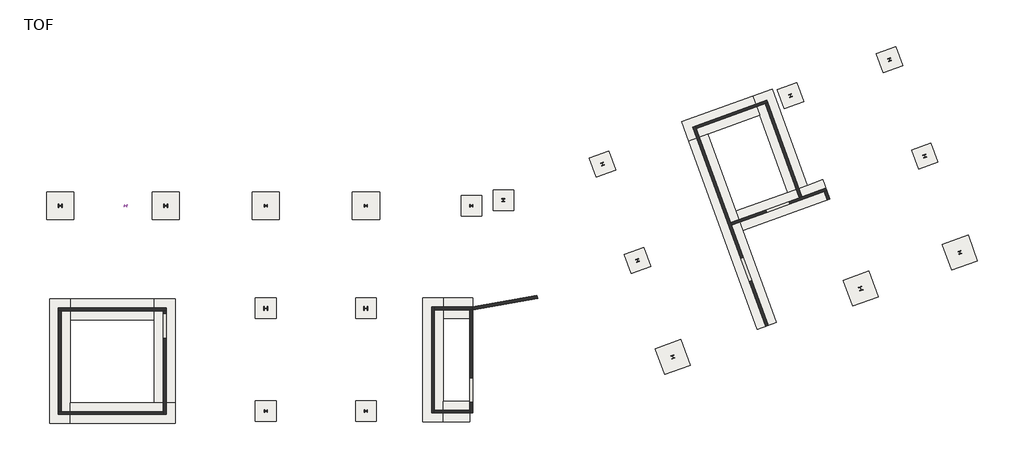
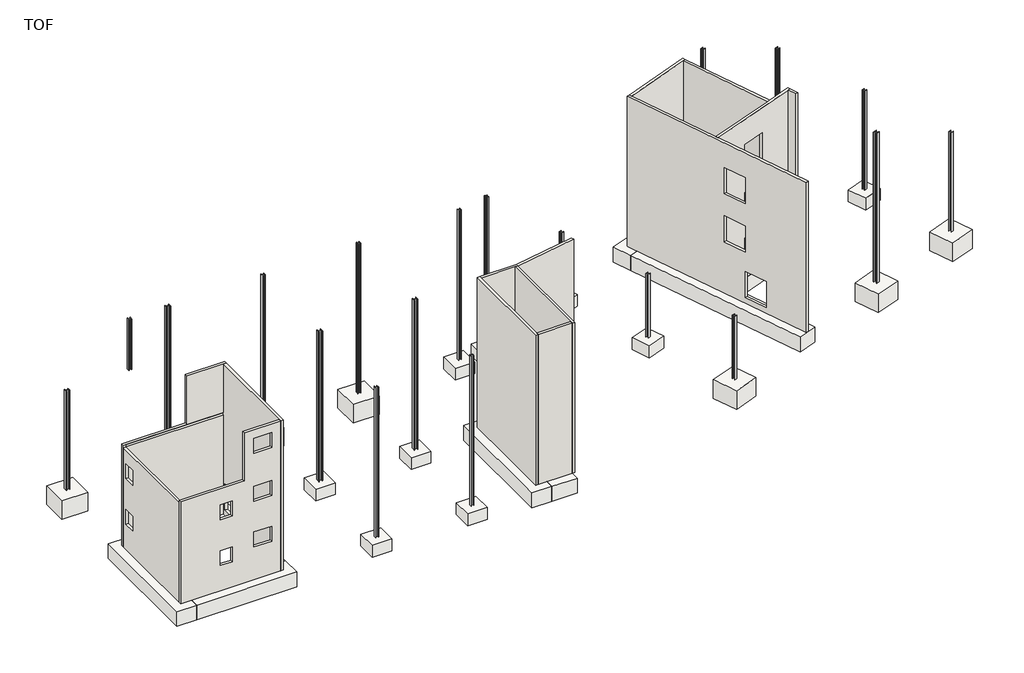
# One storey: 19 columns, 18 slabs, 14 walls, 11 footings.
"""IFC4 building model written with IfcOpenShell, lengths in millimetres."""

from ifc_helpers import new_model, si_unit, point, frame, frame_2d, origin, place, context, project, spatial, polyline, circle_curve, trimmed, segment, composite_curve, outline, extrude, faceted_brep, transform, mapped, element, save
from components import uc_universal_columns_column_uc203x203x71_d5d84301, uc_universal_columns_column_uc203x203x71_8376c960, uc_universal_columns_column_uc203x203x71_e4823124, uc_universal_columns_column_uc254x254x132_117509a7, uc_universal_columns_column_uc254x254x132_a49aefed, footing_rectangular_1500_x_1500_x_950_28d08e25, footing_rectangular_2000_x_2000_x_1500_609e12ed

model = new_model("IFC4")

# Units and contexts
model_context = context("Model", 3, world=origin())
ifc_project = project(units=[si_unit("LENGTHUNIT", "METRE", prefix="MILLI")], contexts=[model_context])

# Site, building, storey
site = spatial("IfcSite", under=ifc_project)
building = spatial("IfcBuilding", under=site)
storey = spatial("IfcBuildingStorey", under=building, Name="TOF", Elevation=-450.0)

# Columns
placement = place(None, origin())
element("IfcColumn", 1, ObjectType="UC-Universal Columns-Column : UC203x203x71", at=placement, inside=storey, context=model_context, shape_type="SweptSolid", body=[
    extrude(outline(composite_curve([segment(polyline([(5023.9666692, 15466.4000005), (5041.2666692, 15466.4000005), (5041.2666692, 15378.4000005)]), True, "CONTINUOUS"), segment(trimmed(circle_curve(frame_2d((5051.4666692, 15378.4000005)), 10.2), [point((5041.2666692, 15378.4000005))], [point((5051.4666692, 15368.2000005))], True, "CARTESIAN"), True, "CONTINUOUS"), segment(polyline([(5051.4666692, 15368.2000005), (5212.2666692, 15368.2000005)]), True, "CONTINUOUS"), segment(trimmed(circle_curve(frame_2d((5212.2666692, 15378.4000005)), 10.2), [point((5212.2666692, 15368.2000005))], [point((5222.4666692, 15378.4000005))], True, "CARTESIAN"), True, "CONTINUOUS"), segment(polyline([(5222.4666692, 15378.4000005), (5222.4666692, 15466.4000005), (5239.7666692, 15466.4000005), (5239.7666692, 15260.0000005), (5222.4666692, 15260.0000005), (5222.4666692, 15348.0000005)]), True, "CONTINUOUS"), segment(trimmed(circle_curve(frame_2d((5212.2666692, 15348.0000005)), 10.2), [point((5222.4666692, 15348.0000005))], [point((5212.2666692, 15358.2000005))], True, "CARTESIAN"), True, "CONTINUOUS"), segment(polyline([(5212.2666692, 15358.2000005), (5051.4666692, 15358.2000005)]), True, "CONTINUOUS"), segment(trimmed(circle_curve(frame_2d((5051.4666692, 15348.0000005)), 10.2), [point((5051.4666692, 15358.2000005))], [point((5041.2666692, 15348.0000005))], True, "CARTESIAN"), True, "CONTINUOUS"), segment(polyline([(5041.2666692, 15348.0000005), (5041.2666692, 15260.0000005), (5023.9666692, 15260.0000005), (5023.9666692, 15466.4000005)]), True, "CONTINUOUS")], self_intersect=False)), frame((0.0, 0.0, 7595.0), z_axis=(0.0, 0.0, 1.0), x_axis=(1.0, 0.0, 0.0)), (0.0, 0.0, 1.0), 4105.0),
])
uc_universal_columns_column_uc203x203x71_shape = uc_universal_columns_column_uc203x203x71_d5d84301(model_context)
element("IfcColumn", 2, ObjectType="UC-Universal Columns-Column : UC203x203x71", at=placement, inside=storey, context=model_context, shape_type="MappedRepresentation", body=[
    mapped(uc_universal_columns_column_uc203x203x71_shape, transform((22662.2000023, 15363.2000005, 0.0), x_axis=(0.0, 1.0, 0.0), y_axis=(-1.0, 0.0, 0.0), z_axis=(0.0, 0.0, 1.0))),
])
element("IfcColumn", 3, ObjectType="UC-Universal Columns-Column : UC203x203x71", at=placement, inside=storey, context=model_context, shape_type="MappedRepresentation", body=[
    mapped(uc_universal_columns_column_uc203x203x71_shape, transform((15362.2000023, 15363.2000005, 0.0), x_axis=(0.0, 1.0, 0.0), y_axis=(-1.0, 0.0, 0.0), z_axis=(0.0, 0.0, 1.0))),
])
element("IfcColumn", 4, ObjectType="UC-Universal Columns-Column : UC203x203x71", at=placement, inside=storey, context=model_context, shape_type="MappedRepresentation", body=[
    mapped(uc_universal_columns_column_uc203x203x71_shape, transform((15362.2000023, 363.2000005, 0.0), x_axis=(0.0, 1.0, 0.0), y_axis=(-1.0, 0.0, 0.0), z_axis=(0.0, 0.0, 1.0))),
])
element("IfcColumn", 5, ObjectType="UC-Universal Columns-Column : UC203x203x71", at=placement, inside=storey, context=model_context, shape_type="MappedRepresentation", body=[
    mapped(uc_universal_columns_column_uc203x203x71_shape, transform((22662.2000022, 363.2000005, 0.0), x_axis=(0.0, 1.0, 0.0), y_axis=(-1.0, 0.0, 0.0), z_axis=(0.0, 0.0, 1.0))),
])
element("IfcColumn", 6, ObjectType="UC-Universal Columns-Column : UC203x203x71", at=placement, inside=storey, context=model_context, shape_type="MappedRepresentation", body=[
    mapped(uc_universal_columns_column_uc203x203x71_shape, transform((53654.8598867, 23402.4160596, 0.0), x_axis=(0.9396926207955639, 0.3420201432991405, 0.0), y_axis=(-0.3420201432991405, 0.9396926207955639, 0.0), z_axis=(0.0, 0.0, 1.0))),
])
element("IfcColumn", 7, ObjectType="UC-Universal Columns-Column : UC203x203x71", at=placement, inside=storey, context=model_context, shape_type="MappedRepresentation", body=[
    mapped(uc_universal_columns_column_uc203x203x71_shape, transform((30362.2000022, 15363.2000005, 0.0), x_axis=(0.0, 1.0, 0.0), y_axis=(-1.0, 0.0, 0.0), z_axis=(0.0, 0.0, 1.0))),
])
element("IfcColumn", 8, ObjectType="UC-Universal Columns-Column : UC203x203x71", at=placement, inside=storey, context=model_context, shape_type="MappedRepresentation", body=[
    mapped(uc_universal_columns_column_uc203x203x71_shape, transform((32699.714443, 15775.3668642, 0.0), x_axis=(1.0, 0.0, 0.0), y_axis=(0.0, 1.0, 0.0), z_axis=(0.0, 0.0, 1.0))),
])
uc_universal_columns_column_uc203x203x71_2_shape = uc_universal_columns_column_uc203x203x71_8376c960(model_context)
element("IfcColumn", 9, ObjectType="UC-Universal Columns-Column : UC203x203x71", at=placement, inside=storey, context=model_context, shape_type="MappedRepresentation", body=[
    mapped(uc_universal_columns_column_uc203x203x71_2_shape, transform((60890.4930669, 26035.971163, 0.0), x_axis=(0.9396926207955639, 0.3420201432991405, 0.0), y_axis=(-0.3420201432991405, 0.9396926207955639, 0.0), z_axis=(0.0, 0.0, 1.0))),
])
element("IfcColumn", 10, ObjectType="UC-Universal Columns-Column : UC203x203x71", at=placement, inside=storey, context=model_context, shape_type="MappedRepresentation", body=[
    mapped(uc_universal_columns_column_uc203x203x71_2_shape, transform((63455.6441416, 18988.2765071, 0.0), x_axis=(0.9396926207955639, 0.3420201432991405, 0.0), y_axis=(-0.3420201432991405, 0.9396926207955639, 0.0), z_axis=(0.0, 0.0, 1.0))),
])
element("IfcColumn", 11, ObjectType="UC-Universal Columns-Column : UC203x203x71", at=placement, inside=storey, context=model_context, shape_type="MappedRepresentation", body=[
    mapped(uc_universal_columns_column_uc203x203x71_2_shape, transform((66020.7952164, 11940.5818511, 0.0), x_axis=(0.9396926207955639, 0.3420201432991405, 0.0), y_axis=(-0.3420201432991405, 0.9396926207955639, 0.0), z_axis=(0.0, 0.0, 1.0))),
])
uc_universal_columns_column_uc203x203x71_3_shape = uc_universal_columns_column_uc203x203x71_e4823124(model_context)
element("IfcColumn", 12, ObjectType="UC-Universal Columns-Column : UC203x203x71", at=placement, inside=storey, context=model_context, shape_type="MappedRepresentation", body=[
    mapped(uc_universal_columns_column_uc203x203x71_3_shape, transform((42500.4986978, 11361.2273115, 0.0), x_axis=(0.9396926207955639, 0.3420201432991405, 0.0), y_axis=(-0.3420201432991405, 0.9396926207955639, 0.0), z_axis=(0.0, 0.0, 1.0))),
])
element("IfcColumn", 13, ObjectType="UC-Universal Columns-Column : UC203x203x71", at=placement, inside=storey, context=model_context, shape_type="MappedRepresentation", body=[
    mapped(uc_universal_columns_column_uc203x203x71_3_shape, transform((39935.3476231, 18408.9219674, 0.0), x_axis=(0.9396926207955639, 0.3420201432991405, 0.0), y_axis=(-0.3420201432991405, 0.9396926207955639, 0.0), z_axis=(0.0, 0.0, 1.0))),
])
element("IfcColumn", 14, ObjectType="UC-Universal Columns-Column : UC203x203x71", at=placement, inside=storey, context=model_context, shape_type="MappedRepresentation", body=[
    mapped(uc_universal_columns_column_uc203x203x71_3_shape, transform((45065.6497726, 4313.5326555, 0.0), x_axis=(0.939692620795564, 0.3420201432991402, 0.0), y_axis=(-0.3420201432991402, 0.939692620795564, 0.0), z_axis=(0.0, 0.0, 1.0))),
])
uc_universal_columns_column_uc254x254x132_shape = uc_universal_columns_column_uc254x254x132_117509a7(model_context)
element("IfcColumn", 15, ObjectType="UC-Universal Columns-Column : UC254x254x132", at=placement, inside=storey, context=model_context, shape_type="MappedRepresentation", body=[
    mapped(uc_universal_columns_column_uc254x254x132_shape, transform((15362.2000023, 7863.2000004, 0.0), x_axis=(0.0, 1.0, 0.0), y_axis=(-1.0, 0.0, 0.0), z_axis=(0.0, 0.0, 1.0))),
])
element("IfcColumn", 16, ObjectType="UC-Universal Columns-Column : UC254x254x132", at=placement, inside=storey, context=model_context, shape_type="MappedRepresentation", body=[
    mapped(uc_universal_columns_column_uc254x254x132_shape, transform((22662.2000022, 7863.2000004, 0.0), x_axis=(0.0, 1.0, 0.0), y_axis=(-1.0, 0.0, 0.0), z_axis=(0.0, 0.0, 1.0))),
])
element("IfcColumn", 17, ObjectType="UC-Universal Columns-Column : UC254x254x132", at=placement, inside=storey, context=model_context, shape_type="MappedRepresentation", body=[
    mapped(uc_universal_columns_column_uc254x254x132_shape, transform((8062.2000022, 15363.2000005, 0.0), x_axis=(0.0, 1.0, 0.0), y_axis=(-1.0, 0.0, 0.0), z_axis=(0.0, 0.0, 1.0))),
])
element("IfcColumn", 18, ObjectType="UC-Universal Columns-Column : UC254x254x132", at=placement, inside=storey, context=model_context, shape_type="MappedRepresentation", body=[
    mapped(uc_universal_columns_column_uc254x254x132_shape, transform((58785.1620362, 9307.0267477, 0.0), x_axis=(0.9396926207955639, 0.3420201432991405, 0.0), y_axis=(-0.3420201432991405, 0.9396926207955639, 0.0), z_axis=(0.0, 0.0, 1.0))),
])
uc_universal_columns_column_uc254x254x132_2_shape = uc_universal_columns_column_uc254x254x132_a49aefed(model_context)
element("IfcColumn", 19, ObjectType="UC-Universal Columns-Column : UC254x254x132", at=placement, inside=storey, context=model_context, shape_type="MappedRepresentation", body=[
    mapped(uc_universal_columns_column_uc254x254x132_2_shape, transform((362.2000023, 15363.2000005, 0.0), x_axis=(0.0, 1.0, 0.0), y_axis=(-1.0, 0.0, 0.0), z_axis=(0.0, 0.0, 1.0))),
])

# Footings
element("IfcFooting", 20, ObjectType="Retaining Footing - 1500 x 1200", at=placement, inside=storey, context=model_context, shape_type="Brep", body=[
    faceted_brep([(1082.9999999, -536.9999993, -450.0), (1083.0000002, 963.0000007, -450.0), (1083.0000011, 7038.2000003, -450.0), (1083.0000014, 8538.2000003, -450.0), (-416.9999986, 8538.2000003, -450.0), (-417.0000001, -536.9999993, -450.0), (-417.0000001, -536.9999993, -1650.0), (-416.9999986, 8538.2000003, -1650.0), (1082.9999999, -536.9999993, -1650.0), (1083.0000014, 8538.2000003, -1650.0), (1083.0000011, 7038.2000003, -1650.0), (1083.0000002, 963.0000007, -1650.0)], [[[0, 1, 2, 3, 4, 5]], [[6, 5, 4, 7]], [[8, 6, 7, 9, 10, 11]], [[0, 8, 11, 10, 9, 3, 2, 1]], [[0, 5, 6, 8]], [[4, 3, 9, 7]]]),
])
element("IfcFooting", 21, ObjectType="Retaining Footing - 1500 x 1200", at=placement, inside=storey, context=model_context, shape_type="Brep", body=[
    faceted_brep([(8737.2000024, -536.9999993, -450.0), (8737.2000024, 963.0000007, -450.0), (7237.2000024, 963.0000007, -450.0), (1083.0000002, 963.0000007, -450.0), (1082.9999999, -536.9999993, -450.0), (8737.2000024, -536.9999993, -1650.0), (1082.9999999, -536.9999993, -1650.0), (8737.2000024, 963.0000007, -1650.0), (1083.0000002, 963.0000007, -1650.0), (7237.2000024, 963.0000007, -1650.0)], [[[0, 1, 2, 3, 4]], [[5, 0, 4, 6]], [[7, 5, 6, 8, 9]], [[1, 7, 9, 8, 3, 2]], [[4, 3, 8, 6]], [[1, 0, 5, 7]]]),
])
element("IfcFooting", 22, ObjectType="Retaining Footing - 1500 x 1200", at=placement, inside=storey, context=model_context, shape_type="Brep", body=[
    faceted_brep([(8737.2000024, 8538.2000005, -450.0), (7237.2000024, 8538.2000005, -450.0), (7237.2000024, 7038.2000005, -450.0), (7237.2000024, 963.0000007, -450.0), (8737.2000024, 963.0000007, -450.0), (8737.2000024, 8538.2000005, -1650.0), (8737.2000024, 963.0000007, -1650.0), (7237.2000024, 8538.2000005, -1650.0), (7237.2000024, 963.0000007, -1650.0), (7237.2000024, 7038.2000005, -1650.0)], [[[0, 1, 2, 3, 4]], [[5, 0, 4, 6]], [[7, 5, 6, 8, 9]], [[1, 7, 9, 8, 3, 2]], [[4, 3, 8, 6]], [[1, 0, 5, 7]]]),
])
element("IfcFooting", 23, ObjectType="Retaining Footing - 1500 x 1200", at=placement, inside=storey, context=model_context, shape_type="SweptSolid", body=[
    extrude(outline(polyline([(1083.0000011, 7038.2000003), (1083.0000014, 8538.2000003), (7237.2000024, 8538.2000005), (7237.2000024, 7038.2000005), (1083.0000011, 7038.2000003)])), frame((0.0, 0.0, -1650.0), z_axis=(0.0, 0.0, 1.0), x_axis=(1.0, 0.0, 0.0)), (0.0, 0.0, 1.0), 1200.0),
])
element("IfcFooting", 24, ObjectType="Retaining Footing - 1500 x 1200", at=placement, inside=storey, context=model_context, shape_type="Brep", body=[
    faceted_brep([(28312.2000028, -429.9999994, -450.0), (28312.2000028, 1070.0000006, -450.0), (28312.2000028, 7113.2000004, -450.0), (28312.2000028, 8613.2000004, -450.0), (26812.2000028, 8613.2000004, -450.0), (26812.2000028, -429.9999994, -450.0), (26812.2000028, -429.9999994, -1650.0), (26812.2000028, 8613.2000004, -1650.0), (28312.2000028, -429.9999994, -1650.0), (28312.2000028, 8613.2000004, -1650.0), (28312.2000028, 7113.2000004, -1650.0), (28312.2000028, 1070.0000006, -1650.0)], [[[0, 1, 2, 3, 4, 5]], [[6, 5, 4, 7]], [[8, 6, 7, 9, 10, 11]], [[0, 8, 11, 10, 9, 3, 2, 1]], [[4, 3, 9, 7]], [[0, 5, 6, 8]]]),
])
element("IfcFooting", 25, ObjectType="Retaining Footing - 1500 x 1200", at=placement, inside=storey, context=model_context, shape_type="SweptSolid", body=[
    extrude(outline(polyline([(30462.2000027, 8613.2000004), (30462.2000027, 7113.2000004), (28312.2000028, 7113.2000004), (28312.2000028, 8613.2000004), (30462.2000027, 8613.2000004)])), frame((0.0, 0.0, -1650.0), z_axis=(0.0, 0.0, 1.0), x_axis=(1.0, 0.0, 0.0)), (0.0, 0.0, 1.0), 1200.0),
])
element("IfcFooting", 26, ObjectType="Retaining Footing - 1500 x 1200", at=placement, inside=storey, context=model_context, shape_type="SweptSolid", body=[
    extrude(outline(polyline([(30262.2000024, 1070.0000006), (30262.2000024, -429.9999994), (28312.2000028, -429.9999994), (28312.2000028, 1070.0000006), (30262.2000024, 1070.0000006)])), frame((0.0, 0.0, -1650.0), z_axis=(0.0, 0.0, 1.0), x_axis=(1.0, 0.0, 0.0)), (0.0, 0.0, 1.0), 1200.0),
])
element("IfcFooting", 27, ObjectType="Retaining Footing - 1500 x 1200", at=placement, inside=storey, context=model_context, shape_type="Brep", body=[
    faceted_brep([(50904.0078621, 23385.7650789, -450.0), (51417.0380771, 21976.2261477, -450.0), (53468.3722906, 16340.2317159, -450.0), (54877.9112218, 16853.2619309, -450.0), (52313.5467933, 23898.7952939, -450.0), (52313.5467933, 23898.7952939, -1650.0), (54877.9112218, 16853.2619309, -1650.0), (50904.0078621, 23385.7650789, -1650.0), (53468.3722906, 16340.2317159, -1650.0), (51417.0380771, 21976.2261477, -1650.0)], [[[0, 1, 2, 3, 4]], [[5, 4, 3, 6]], [[7, 5, 6, 8, 9]], [[0, 7, 9, 8, 2, 1]], [[0, 4, 5, 7]], [[3, 2, 8, 6]]]),
])
element("IfcFooting", 28, ObjectType="Retaining Footing - 1500 x 1200", at=placement, inside=storey, context=model_context, shape_type="Brep", body=[
    faceted_brep([(45703.4203062, 21492.9060081, -450.0), (46216.4505212, 20083.3670769, -450.0), (47625.9894524, 20596.3972918, -450.0), (51417.0380771, 21976.2261477, -450.0), (50904.0078621, 23385.7650789, -450.0), (45703.4203062, 21492.9060081, -1650.0), (50904.0078621, 23385.7650789, -1650.0), (46216.4505212, 20083.3670769, -1650.0), (51417.0380771, 21976.2261477, -1650.0), (47625.9894524, 20596.3972918, -1650.0)], [[[0, 1, 2, 3, 4]], [[5, 0, 4, 6]], [[7, 5, 6, 8, 9]], [[1, 7, 9, 8, 3, 2]], [[4, 3, 8, 6]], [[1, 0, 5, 7]]]),
])
element("IfcFooting", 29, ObjectType="Retaining Footing - 1500 x 1200", at=placement, inside=storey, context=model_context, shape_type="Brep", body=[
    faceted_brep([(51223.7622271, 6325.8912314, -450.0), (51223.7622271, 6325.8912314, -1650.0), (52633.3011583, 6838.9214464, -1650.0), (52633.3011583, 6838.9214464, -450.0), (50190.3538808, 13550.8639288, -450.0), (49677.3236659, 14960.40286, -450.0), (47625.9894524, 20596.3972918, -450.0), (46216.4505212, 20083.3670769, -450.0), (46216.4505212, 20083.3670769, -1650.0), (47625.9894524, 20596.3972918, -1650.0), (49677.3236659, 14960.40286, -1650.0), (50190.3538808, 13550.8639288, -1650.0)], [[[0, 1, 2, 3]], [[0, 3, 4, 5, 6, 7]], [[1, 0, 7, 8]], [[2, 1, 8, 9, 10, 11]], [[3, 2, 11, 10, 9, 6, 5, 4]], [[7, 6, 9, 8]]]),
])
element("IfcFooting", 30, ObjectType="Retaining Footing - 1500 x 1200", at=placement, inside=storey, context=model_context, shape_type="Brep", body=[
    faceted_brep([(56533.2790712, 15859.499896, -450.0), (56533.2790712, 15859.499896, -1650.0), (56020.2488562, 17269.0388272, -1650.0), (56020.2488562, 17269.0388272, -450.0), (50190.3538808, 13550.8639288, -450.0), (54877.9112218, 16853.2619309, -450.0), (53468.3722906, 16340.2317159, -450.0), (49677.3236659, 14960.40286, -450.0), (50190.3538808, 13550.8639288, -1650.0), (49677.3236659, 14960.40286, -1650.0), (53468.3722906, 16340.2317159, -1650.0), (54877.9112218, 16853.2619309, -1650.0)], [[[0, 1, 2, 3]], [[4, 0, 3, 5, 6, 7]], [[1, 0, 4, 8]], [[2, 1, 8, 9, 10, 11]], [[3, 2, 11, 10, 9, 7, 6, 5]], [[4, 7, 9, 8]]]),
])

# Slabs
footing_rectangular_1500_x_1500_x_950_shape = footing_rectangular_1500_x_1500_x_950_28d08e25(model_context)
element("IfcSlab", 31, ObjectType="Footing-Rectangular : 1500 x 1500 x 950", at=placement, inside=storey, context=model_context, shape_type="MappedRepresentation", body=[
    mapped(footing_rectangular_1500_x_1500_x_950_shape, transform((15362.2000023, 7863.2000004, -450.0), x_axis=(0.0, 1.0, 0.0), y_axis=(-1.0, 0.0, 0.0), z_axis=(0.0, 0.0, 1.0))),
])
element("IfcSlab", 32, ObjectType="Footing-Rectangular : 1500 x 1500 x 950", at=placement, inside=storey, context=model_context, shape_type="MappedRepresentation", body=[
    mapped(footing_rectangular_1500_x_1500_x_950_shape, transform((22662.2000022, 7863.2000004, -450.0), x_axis=(0.0, 1.0, 0.0), y_axis=(-1.0, 0.0, 0.0), z_axis=(0.0, 0.0, 1.0))),
])
element("IfcSlab", 33, ObjectType="Footing-Rectangular : 1500 x 1500 x 950", at=placement, inside=storey, context=model_context, shape_type="MappedRepresentation", body=[
    mapped(footing_rectangular_1500_x_1500_x_950_shape, transform((15362.2000023, 363.2000005, -450.0), x_axis=(0.0, 1.0, 0.0), y_axis=(-1.0, 0.0, 0.0), z_axis=(0.0, 0.0, 1.0))),
])
element("IfcSlab", 34, ObjectType="Footing-Rectangular : 1500 x 1500 x 950", at=placement, inside=storey, context=model_context, shape_type="MappedRepresentation", body=[
    mapped(footing_rectangular_1500_x_1500_x_950_shape, transform((22662.2000022, 363.2000005, -450.0), x_axis=(0.0, 1.0, 0.0), y_axis=(-1.0, 0.0, 0.0), z_axis=(0.0, 0.0, 1.0))),
])
element("IfcSlab", 35, ObjectType="Footing-Rectangular : 1500 x 1500 x 950", at=placement, inside=storey, context=model_context, shape_type="MappedRepresentation", body=[
    mapped(footing_rectangular_1500_x_1500_x_950_shape, transform((42500.4986978, 11361.2273115, -450.0), x_axis=(0.9396926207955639, 0.3420201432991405, 0.0), y_axis=(-0.3420201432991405, 0.9396926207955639, 0.0), z_axis=(0.0, 0.0, 1.0))),
])
element("IfcSlab", 36, ObjectType="Footing-Rectangular : 1500 x 1500 x 950", at=placement, inside=storey, context=model_context, shape_type="MappedRepresentation", body=[
    mapped(footing_rectangular_1500_x_1500_x_950_shape, transform((39935.3476231, 18408.9219674, -450.0), x_axis=(0.9396926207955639, 0.3420201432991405, 0.0), y_axis=(-0.3420201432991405, 0.9396926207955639, 0.0), z_axis=(0.0, 0.0, 1.0))),
])
element("IfcSlab", 37, ObjectType="Footing-Rectangular : 1500 x 1500 x 950", at=placement, inside=storey, context=model_context, shape_type="MappedRepresentation", body=[
    mapped(footing_rectangular_1500_x_1500_x_950_shape, transform((53654.8598867, 23402.4160596, -450.0), x_axis=(0.9396926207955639, 0.3420201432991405, 0.0), y_axis=(-0.3420201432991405, 0.9396926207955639, 0.0), z_axis=(0.0, 0.0, 1.0))),
])
element("IfcSlab", 38, ObjectType="Footing-Rectangular : 1500 x 1500 x 950", at=placement, inside=storey, context=model_context, shape_type="MappedRepresentation", body=[
    mapped(footing_rectangular_1500_x_1500_x_950_shape, transform((60890.4930669, 26035.971163, -450.0), x_axis=(0.9396926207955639, 0.3420201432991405, 0.0), y_axis=(-0.3420201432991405, 0.9396926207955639, 0.0), z_axis=(0.0, 0.0, 1.0))),
])
element("IfcSlab", 39, ObjectType="Footing-Rectangular : 1500 x 1500 x 950", at=placement, inside=storey, context=model_context, shape_type="MappedRepresentation", body=[
    mapped(footing_rectangular_1500_x_1500_x_950_shape, transform((63455.6441416, 18988.2765071, -450.0), x_axis=(0.9396926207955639, 0.3420201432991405, 0.0), y_axis=(-0.3420201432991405, 0.9396926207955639, 0.0), z_axis=(0.0, 0.0, 1.0))),
])
element("IfcSlab", 40, ObjectType="Footing-Rectangular : 1500 x 1500 x 950", at=placement, inside=storey, context=model_context, shape_type="MappedRepresentation", body=[
    mapped(footing_rectangular_1500_x_1500_x_950_shape, transform((30362.2000022, 15363.2000005, -450.0), x_axis=(0.0, 1.0, 0.0), y_axis=(-1.0, 0.0, 0.0), z_axis=(0.0, 0.0, 1.0))),
])
element("IfcSlab", 41, ObjectType="Footing-Rectangular : 1500 x 1500 x 950", at=placement, inside=storey, context=model_context, shape_type="MappedRepresentation", body=[
    mapped(footing_rectangular_1500_x_1500_x_950_shape, transform((32699.714443, 15775.3668642, -450.0), x_axis=(1.0, 0.0, 0.0), y_axis=(0.0, 1.0, 0.0), z_axis=(0.0, 0.0, 1.0))),
])
footing_rectangular_2000_x_2000_x_1500_shape = footing_rectangular_2000_x_2000_x_1500_609e12ed(model_context)
element("IfcSlab", 42, ObjectType="Footing-Rectangular : 2000 x 2000 x 1500", at=placement, inside=storey, context=model_context, shape_type="MappedRepresentation", body=[
    mapped(footing_rectangular_2000_x_2000_x_1500_shape, transform((22662.2000023, 15363.2000005, -450.0), x_axis=(0.0, 1.0, 0.0), y_axis=(-1.0, 0.0, 0.0), z_axis=(0.0, 0.0, 1.0))),
])
element("IfcSlab", 43, ObjectType="Footing-Rectangular : 2000 x 2000 x 1500", at=placement, inside=storey, context=model_context, shape_type="MappedRepresentation", body=[
    mapped(footing_rectangular_2000_x_2000_x_1500_shape, transform((15362.2000023, 15363.2000005, -450.0), x_axis=(0.0, 1.0, 0.0), y_axis=(-1.0, 0.0, 0.0), z_axis=(0.0, 0.0, 1.0))),
])
element("IfcSlab", 44, ObjectType="Footing-Rectangular : 2000 x 2000 x 1500", at=placement, inside=storey, context=model_context, shape_type="MappedRepresentation", body=[
    mapped(footing_rectangular_2000_x_2000_x_1500_shape, transform((8062.2000022, 15363.2000005, -450.0), x_axis=(0.0, 1.0, 0.0), y_axis=(-1.0, 0.0, 0.0), z_axis=(0.0, 0.0, 1.0))),
])
element("IfcSlab", 45, ObjectType="Footing-Rectangular : 2000 x 2000 x 1500", at=placement, inside=storey, context=model_context, shape_type="MappedRepresentation", body=[
    mapped(footing_rectangular_2000_x_2000_x_1500_shape, transform((362.2000023, 15363.2000005, -450.0), x_axis=(0.0, 1.0, 0.0), y_axis=(-1.0, 0.0, 0.0), z_axis=(0.0, 0.0, 1.0))),
])
element("IfcSlab", 46, ObjectType="Footing-Rectangular : 2000 x 2000 x 1500", at=placement, inside=storey, context=model_context, shape_type="MappedRepresentation", body=[
    mapped(footing_rectangular_2000_x_2000_x_1500_shape, transform((66020.7952164, 11940.5818511, -450.0), x_axis=(0.9396926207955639, 0.3420201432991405, 0.0), y_axis=(-0.3420201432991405, 0.9396926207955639, 0.0), z_axis=(0.0, 0.0, 1.0))),
])
element("IfcSlab", 47, ObjectType="Footing-Rectangular : 2000 x 2000 x 1500", at=placement, inside=storey, context=model_context, shape_type="MappedRepresentation", body=[
    mapped(footing_rectangular_2000_x_2000_x_1500_shape, transform((58785.1620362, 9307.0267477, -450.0), x_axis=(0.9396926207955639, 0.3420201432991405, 0.0), y_axis=(-0.3420201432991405, 0.9396926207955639, 0.0), z_axis=(0.0, 0.0, 1.0))),
])
element("IfcSlab", 48, ObjectType="Footing-Rectangular : 2000 x 2000 x 1500", at=placement, inside=storey, context=model_context, shape_type="MappedRepresentation", body=[
    mapped(footing_rectangular_2000_x_2000_x_1500_shape, transform((45065.6497726, 4313.5326555, -450.0), x_axis=(0.939692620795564, 0.3420201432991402, 0.0), y_axis=(-0.3420201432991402, 0.939692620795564, 0.0), z_axis=(0.0, 0.0, 1.0))),
])

# Walls
element("IfcWall", 49, ObjectType="RC WALL 200", at=placement, inside=storey, context=model_context, shape_type="Brep", body=[
    faceted_brep([(27662.2000028, 220.0000006, -450.0), (27662.2000028, 420.0000006, -450.0), (27662.2000028, 7763.2000004, -450.0), (27662.2000028, 7963.2000004, -450.0), (27662.2000028, 7963.2000004, 11700.0), (27662.2000028, 7763.2000004, 11700.0), (27662.2000028, 420.0000006, 11700.0), (27662.2000028, 220.0000006, 11700.0), (27462.2000028, 220.0000006, -450.0), (27462.2000028, 220.0000006, 11700.0), (27462.2000028, 7963.2000004, 11700.0), (27462.2000028, 7963.2000004, -450.0)], [[[0, 1, 2, 3, 4, 5, 6, 7]], [[8, 9, 10, 11]], [[3, 2, 1, 0, 8, 11]], [[7, 6, 5, 4, 10, 9]], [[4, 3, 11, 10]], [[0, 7, 9, 8]]]),
])
element("IfcWall", 50, ObjectType="RC WALL 200", at=placement, inside=storey, context=model_context, shape_type="Brep", body=[
    faceted_brep([(27662.2000028, 7763.2000004, -450.0), (30262.2000024, 7763.2000004, -450.0), (30462.2000027, 7763.2000004, -450.0), (30462.2000027, 7763.2000004, 11700.0), (30262.2000024, 7763.2000004, 11700.0), (27662.2000028, 7763.2000004, 11700.0), (27662.2000028, 7963.2000004, -450.0), (27662.2000028, 7963.2000004, 11700.0), (30444.70227, 7963.2000004, 11700.0), (30444.70227, 7963.2000004, -450.0)], [[[0, 1, 2, 3, 4, 5]], [[6, 7, 8, 9]], [[2, 1, 0, 6, 9]], [[5, 4, 3, 8, 7]], [[0, 5, 7, 6]], [[3, 2, 9, 8]]]),
])
element("IfcWall", 51, ObjectType="RC WALL 200", at=placement, inside=storey, context=model_context, shape_type="SweptSolid", body=[
    extrude(outline(polyline([(35205.0982701, 8599.5009317), (30462.2000027, 7763.2000004), (30444.70227, 7963.2000004), (35153.1367317, 8793.4240329), (35205.0982701, 8599.5009317)])), frame((0.0, 0.0, -450.0), z_axis=(0.0, 0.0, 1.0), x_axis=(1.0, 0.0, 0.0)), (0.0, 0.0, 1.0), 12150.0),
])
element("IfcWall", 52, ObjectType="RC WALL 200", at=placement, inside=storey, context=model_context, shape_type="Brep", body=[
    faceted_brep([(30262.2000024, 7763.2000004, -450.0), (30262.2000024, 420.0000006, -450.0), (30262.2000024, 220.0000006, -450.0), (30262.2000024, 220.0000006, 11700.0), (30262.2000024, 420.0000006, 11700.0), (30262.2000024, 7763.2000004, 11700.0), (30262.2000024, 2805.5234345, 2110.0), (30262.2000024, 995.5234345, 2110.0), (30262.2000024, 995.5234345, 0.0), (30262.2000024, 2805.5234345, 0.0), (30262.2000024, 2805.5234345, 5805.0), (30262.2000024, 995.5234345, 5805.0), (30262.2000024, 995.5234345, 3695.0), (30262.2000024, 2805.5234345, 3695.0), (30262.2000024, 2805.5234345, 9705.0), (30262.2000024, 995.5234345, 9705.0), (30262.2000024, 995.5234345, 7595.0), (30262.2000024, 2805.5234345, 7595.0), (30462.2000024, 7763.2000004, -450.0), (30462.2000024, 7763.2000004, 11700.0), (30462.2000024, 220.0000006, 11700.0), (30462.2000024, 220.0000006, -450.0), (30462.2000024, 2805.5234345, 2110.0), (30462.2000024, 2805.5234345, 0.0), (30462.2000024, 995.5234345, 0.0), (30462.2000024, 995.5234345, 2110.0), (30462.2000024, 2805.5234345, 5805.0), (30462.2000024, 2805.5234345, 3695.0), (30462.2000024, 995.5234345, 3695.0), (30462.2000024, 995.5234345, 5805.0), (30462.2000024, 2805.5234345, 9705.0), (30462.2000024, 2805.5234345, 7595.0), (30462.2000024, 995.5234345, 7595.0), (30462.2000024, 995.5234345, 9705.0)], [[[0, 1, 2, 3, 4, 5], [6, 7, 8, 9], [10, 11, 12, 13], [14, 15, 16, 17]], [[18, 19, 20, 21], [22, 23, 24, 25], [26, 27, 28, 29], [30, 31, 32, 33]], [[2, 1, 0, 18, 21]], [[5, 4, 3, 20, 19]], [[0, 5, 19, 18]], [[3, 2, 21, 20]], [[23, 22, 6, 9]], [[24, 23, 9, 8]], [[25, 24, 8, 7]], [[22, 25, 7, 6]], [[27, 26, 10, 13]], [[28, 27, 13, 12]], [[29, 28, 12, 11]], [[26, 29, 11, 10]], [[31, 30, 14, 17]], [[32, 31, 17, 16]], [[33, 32, 16, 15]], [[30, 33, 15, 14]]]),
])
element("IfcWall", 53, ObjectType="RC WALL 200", at=placement, inside=storey, context=model_context, shape_type="SweptSolid", body=[
    extrude(outline(polyline([(27662.2000028, 420.0000006), (30262.2000024, 420.0000006), (30262.2000024, 220.0000006), (27662.2000028, 220.0000006), (27662.2000028, 420.0000006)])), frame((0.0, 0.0, -450.0), z_axis=(0.0, 0.0, 1.0), x_axis=(1.0, 0.0, 0.0)), (0.0, 0.0, 1.0), 12150.0),
])
element("IfcWall", 54, ObjectType="RC WALL 200", at=placement, inside=storey, context=model_context, shape_type="Brep", body=[
    faceted_brep([(233.0000012, 7688.2000003, -450.0), (433.0000012, 7688.2000003, -450.0), (7887.2000024, 7688.2000005, -450.0), (8087.2000024, 7688.2000005, -450.0), (8087.2000024, 7688.2000005, 7595.0), (433.0000012, 7688.2000003, 7595.0), (408.0000012, 7688.2000003, 7595.0), (408.0000012, 7688.2000003, 7795.0), (8087.2000024, 7688.2000005, 7795.0), (8087.2000024, 7688.2000005, 11700.0), (7887.2000024, 7688.2000005, 11700.0), (5097.2000022, 7688.2000004, 11700.0), (5097.2000022, 7688.2000004, 7800.0), (233.0000012, 7688.2000003, 7800.0), (233.0000012, 7688.2000003, 7595.0), (8087.2000024, 7888.2000005, -450.0), (233.0000013, 7888.2000003, -450.0), (233.0000013, 7888.2000003, 7800.0), (5097.2000022, 7888.2000004, 7800.0), (5097.2000022, 7888.2000004, 11700.0), (8087.2000024, 7888.2000005, 11700.0), (8087.2000024, 7888.2000005, 7795.0), (408.0000013, 7888.2000003, 7795.0), (408.0000013, 7888.2000003, 7595.0), (8087.2000024, 7888.2000005, 7595.0)], [[[0, 1, 2, 3, 4, 5, 6, 7, 8, 9, 10, 11, 12, 13, 14]], [[15, 16, 17, 18, 19, 20, 21, 22, 23, 24]], [[0, 14, 13, 17, 16]], [[3, 15, 24, 4]], [[20, 9, 8, 21]], [[3, 2, 1, 0, 16, 15]], [[11, 10, 9, 20, 19]], [[12, 11, 19, 18]], [[13, 12, 18, 17]], [[23, 6, 5, 4, 24]], [[7, 22, 21, 8]], [[6, 23, 22, 7]]]),
])
element("IfcWall", 55, ObjectType="RC WALL 200", at=placement, inside=storey, context=model_context, shape_type="Brep", body=[
    faceted_brep([(7887.2000024, 7688.2000005, -450.0), (7887.2000024, 313.0000007, -450.0), (7887.2000024, 113.0000007, -450.0), (7887.2000024, 113.0000007, 11700.0), (7887.2000024, 313.0000007, 11700.0), (7887.2000024, 7688.2000005, 11700.0), (7887.2000024, 5678.2000005, 2110.0), (7887.2000024, 5678.2000005, 0.0), (7887.2000024, 7488.2000005, 0.0), (7887.2000024, 7488.2000005, 2110.0), (8087.2000024, 7688.2000005, -450.0), (8087.2000024, 7688.2000005, 7595.0), (8087.2000024, 7688.2000005, 7795.0), (8087.2000024, 7688.2000005, 11700.0), (8087.2000024, 113.0000007, 11700.0), (8087.2000024, 113.0000007, -450.0), (8087.2000024, 5678.2000005, 2110.0), (8087.2000024, 7488.2000005, 2110.0), (8087.2000024, 7488.2000005, 0.0), (8087.2000024, 5678.2000005, 0.0)], [[[0, 1, 2, 3, 4, 5], [6, 7, 8, 9]], [[10, 11, 12, 13, 14, 15], [16, 17, 18, 19]], [[2, 1, 0, 10, 15]], [[5, 4, 3, 14, 13]], [[3, 2, 15, 14]], [[7, 6, 16, 19]], [[8, 7, 19, 18]], [[9, 8, 18, 17]], [[6, 9, 17, 16]], [[0, 5, 13, 12, 11, 10]]]),
])
element("IfcWall", 56, ObjectType="RC WALL 200", at=placement, inside=storey, context=model_context, shape_type="Brep", body=[
    faceted_brep([(7887.2000024, 313.0000007, -450.0), (433.0000001, 313.0000007, -450.0), (233.0000001, 313.0000007, -450.0), (233.0000001, 313.0000007, 7595.0), (233.0000001, 313.0000007, 7800.0), (5097.2000022, 313.0000007, 7800.0), (5097.2000022, 313.0000007, 11700.0), (7887.2000024, 313.0000007, 11700.0), (4197.2000022, 313.0000007, 6495.0), (3287.2000022, 313.0000007, 6495.0), (3287.2000022, 313.0000007, 5285.0), (4197.2000022, 313.0000007, 5285.0), (4197.2000022, 313.0000007, 2800.0), (3287.2000022, 313.0000007, 2800.0), (3287.2000022, 313.0000007, 1590.0), (4197.2000022, 313.0000007, 1590.0), (7213.8166692, 313.0000007, 7095.0), (5853.8166692, 313.0000007, 7095.0), (5853.8166692, 313.0000007, 5885.0), (7213.8166692, 313.0000007, 5885.0), (7213.8166692, 313.0000007, 3400.0), (5853.8166692, 313.0000007, 3400.0), (5853.8166692, 313.0000007, 2190.0), (7213.8166692, 313.0000007, 2190.0), (7213.8166692, 313.0000007, 10995.0), (5853.8166692, 313.0000007, 10995.0), (5853.8166692, 313.0000007, 9785.0), (7213.8166692, 313.0000007, 9785.0), (7887.2000024, 113.0000007, -450.0), (7887.2000024, 113.0000007, 11700.0), (5097.2000022, 113.0000007, 11700.0), (5097.2000022, 113.0000007, 7800.0), (233.0, 113.0000007, 7800.0), (233.0, 113.0000007, -450.0), (4197.2000022, 113.0000007, 6495.0), (4197.2000022, 113.0000007, 5285.0), (3287.2000022, 113.0000007, 5285.0), (3287.2000022, 113.0000007, 6495.0), (4197.2000022, 113.0000007, 2800.0), (4197.2000022, 113.0000007, 1590.0), (3287.2000022, 113.0000007, 1590.0), (3287.2000022, 113.0000007, 2800.0), (7213.8166692, 113.0000007, 7095.0), (7213.8166692, 113.0000007, 5885.0), (5853.8166692, 113.0000007, 5885.0), (5853.8166692, 113.0000007, 7095.0), (7213.8166692, 113.0000007, 3400.0), (7213.8166692, 113.0000007, 2190.0), (5853.8166692, 113.0000007, 2190.0), (5853.8166692, 113.0000007, 3400.0), (7213.8166692, 113.0000007, 10995.0), (7213.8166692, 113.0000007, 9785.0), (5853.8166692, 113.0000007, 9785.0), (5853.8166692, 113.0000007, 10995.0)], [[[0, 1, 2, 3, 4, 5, 6, 7], [8, 9, 10, 11], [12, 13, 14, 15], [16, 17, 18, 19], [20, 21, 22, 23], [24, 25, 26, 27]], [[28, 29, 30, 31, 32, 33], [34, 35, 36, 37], [38, 39, 40, 41], [42, 43, 44, 45], [46, 47, 48, 49], [50, 51, 52, 53]], [[0, 7, 29, 28]], [[4, 3, 2, 33, 32]], [[35, 34, 8, 11]], [[36, 35, 11, 10]], [[37, 36, 10, 9]], [[34, 37, 9, 8]], [[39, 38, 12, 15]], [[40, 39, 15, 14]], [[41, 40, 14, 13]], [[38, 41, 13, 12]], [[43, 42, 16, 19]], [[44, 43, 19, 18]], [[45, 44, 18, 17]], [[42, 45, 17, 16]], [[47, 46, 20, 23]], [[48, 47, 23, 22]], [[49, 48, 22, 21]], [[46, 49, 21, 20]], [[51, 50, 24, 27]], [[52, 51, 27, 26]], [[53, 52, 26, 25]], [[50, 53, 25, 24]], [[2, 1, 0, 28, 33]], [[7, 6, 30, 29]], [[5, 4, 32, 31]], [[6, 5, 31, 30]]]),
])
element("IfcWall", 57, ObjectType="RC WALL 200", at=placement, inside=storey, context=model_context, shape_type="Brep", body=[
    faceted_brep([(433.0000001, 313.0000007, -450.0), (433.0000012, 7688.2000003, -450.0), (433.0000012, 7688.2000003, 7595.0), (433.0000001, 313.0000007, 7595.0), (433.000001, 6478.2000003, 6495.0), (433.0000012, 7388.2000003, 6495.0), (433.0000012, 7388.2000003, 5285.0), (433.000001, 6478.2000003, 5285.0), (433.000001, 6478.2000003, 2800.0), (433.0000012, 7388.2000003, 2800.0), (433.0000012, 7388.2000003, 1590.0), (433.000001, 6478.2000003, 1590.0), (233.0000001, 313.0000007, -450.0), (233.0000001, 313.0000007, 7595.0), (233.0000012, 7688.2000003, 7595.0), (233.0000012, 7688.2000003, -450.0), (233.000001, 6478.2000003, 6495.0), (233.000001, 6478.2000003, 5285.0), (233.0000012, 7388.2000003, 5285.0), (233.0000012, 7388.2000003, 6495.0), (233.000001, 6478.2000003, 2800.0), (233.000001, 6478.2000003, 1590.0), (233.0000012, 7388.2000003, 1590.0), (233.0000012, 7388.2000003, 2800.0), (408.0000012, 7688.2000003, 7595.0)], [[[0, 1, 2, 3], [4, 5, 6, 7], [8, 9, 10, 11]], [[12, 13, 14, 15], [16, 17, 18, 19], [20, 21, 22, 23]], [[1, 0, 12, 15]], [[3, 2, 24, 14, 13]], [[2, 1, 15, 14, 24]], [[0, 3, 13, 12]], [[17, 16, 4, 7]], [[18, 17, 7, 6]], [[19, 18, 6, 5]], [[16, 19, 5, 4]], [[21, 20, 8, 11]], [[22, 21, 11, 10]], [[23, 22, 10, 9]], [[20, 23, 9, 8]]]),
])
element("IfcWall", 58, ObjectType="RC WALL 200", at=placement, inside=storey, context=model_context, shape_type="Brep", body=[
    faceted_brep([(52022.5009548, 6616.6083532, -450.0), (49357.2405842, 13939.3510391, -450.0), (49288.8365555, 14127.2895633, -450.0), (46792.8761557, 20984.8844022, -450.0), (46724.472127, 21172.8229263, -450.0), (46724.472127, 21172.8229263, 11700.0), (46792.8761557, 20984.8844022, 11700.0), (49288.8365555, 14127.2895633, 11700.0), (49357.2405842, 13939.3510391, 11700.0), (52022.5009548, 6616.6083532, 11700.0), (49588.9592312, 13302.7092887, 5805.0), (49588.9592312, 13302.7092887, 3695.0), (50208.0156906, 11601.865645, 3695.0), (50208.0156906, 11601.865645, 5805.0), (50212.2909424, 11590.1194872, 2110.0), (50212.2909424, 11590.1194872, 0.0), (50831.3474018, 9889.2758435, 0.0), (50831.3474018, 9889.2758435, 2110.0), (49588.9592312, 13302.7092887, 9705.0), (49588.9592312, 13302.7092887, 7595.0), (50208.0156906, 11601.865645, 7595.0), (50208.0156906, 11601.865645, 9705.0), (51834.5624306, 6548.2043246, -450.0), (51834.5624306, 6548.2043246, 11700.0), (46536.5336029, 21104.4188977, 11700.0), (46536.5336029, 21104.4188977, -450.0), (49401.020707, 13234.30526, 5805.0), (50020.0771664, 11533.4616164, 5805.0), (50020.0771664, 11533.4616164, 3695.0), (49401.020707, 13234.30526, 3695.0), (50024.3524182, 11521.7154585, 2110.0), (50643.4088776, 9820.8718149, 2110.0), (50643.4088776, 9820.8718149, 0.0), (50024.3524182, 11521.7154585, 0.0), (49401.020707, 13234.30526, 9705.0), (50020.0771664, 11533.4616164, 9705.0), (50020.0771664, 11533.4616164, 7595.0), (49401.020707, 13234.30526, 7595.0)], [[[0, 1, 2, 3, 4, 5, 6, 7, 8, 9], [10, 11, 12, 13], [14, 15, 16, 17], [18, 19, 20, 21]], [[22, 23, 24, 25], [26, 27, 28, 29], [30, 31, 32, 33], [34, 35, 36, 37]], [[4, 3, 2, 1, 0, 22, 25]], [[9, 8, 7, 6, 5, 24, 23]], [[0, 9, 23, 22]], [[5, 4, 25, 24]], [[11, 10, 26, 29]], [[12, 11, 29, 28]], [[13, 12, 28, 27]], [[10, 13, 27, 26]], [[15, 14, 30, 33]], [[16, 15, 33, 32]], [[17, 16, 32, 31]], [[14, 17, 31, 30]], [[19, 18, 34, 37]], [[20, 19, 37, 36]], [[21, 20, 36, 35]], [[18, 21, 35, 34]]]),
])
element("IfcWall", 59, ObjectType="RC WALL 200", at=placement, inside=storey, context=model_context, shape_type="Brep", body=[
    faceted_brep([(46792.8761557, 20984.8844022, -450.0), (51805.5251874, 22809.3394444, -450.0), (51993.4637116, 22877.743473, -450.0), (51993.4637116, 22877.743473, 11700.0), (51805.5251874, 22809.3394444, 11700.0), (46792.8761557, 20984.8844022, 11700.0), (46724.472127, 21172.8229263, -450.0), (46724.472127, 21172.8229263, 11700.0), (51925.0596829, 23065.6819972, 11700.0), (51925.0596829, 23065.6819972, -450.0)], [[[0, 1, 2, 3, 4, 5]], [[6, 7, 8, 9]], [[2, 1, 0, 6, 9]], [[5, 4, 3, 8, 7]], [[0, 5, 7, 6]], [[3, 2, 9, 8]]]),
])
element("IfcWall", 60, ObjectType="RC WALL 200", at=placement, inside=storey, context=model_context, shape_type="SweptSolid", body=[
    extrude(outline(polyline([(54301.4855873, 15951.7446055), (51805.5251874, 22809.3394444), (51993.4637116, 22877.743473), (54489.4241114, 16020.1486342), (54301.4855873, 15951.7446055)])), frame((0.0, 0.0, -450.0), z_axis=(0.0, 0.0, 1.0), x_axis=(1.0, 0.0, 0.0)), (0.0, 0.0, 1.0), 12150.0),
])
element("IfcWall", 61, ObjectType="RC WALL 200", at=placement, inside=storey, context=model_context, shape_type="Brep", body=[
    faceted_brep([(56242.5619494, 16658.2386237, -450.0), (54489.4241114, 16020.1486342, -450.0), (54301.4855873, 15951.7446055, -450.0), (49288.8365555, 14127.2895633, -450.0), (49288.8365555, 14127.2895633, 11700.0), (54301.4855873, 15951.7446055, 11700.0), (54489.4241114, 16020.1486342, 11700.0), (56242.5619494, 16658.2386237, 11700.0), (53549.7314906, 15678.1284909, 2110.0), (51848.887847, 15059.0720315, 2110.0), (51848.887847, 15059.0720315, 0.0), (53549.7314906, 15678.1284909, 0.0), (53549.7314906, 15678.1284909, 5805.0), (51848.887847, 15059.0720315, 5805.0), (51848.887847, 15059.0720315, 3695.0), (53549.7314906, 15678.1284909, 3695.0), (53549.7314906, 15678.1284909, 9705.0), (51848.887847, 15059.0720315, 9705.0), (51848.887847, 15059.0720315, 7595.0), (53549.7314906, 15678.1284909, 7595.0), (56310.965978, 16470.3000996, -450.0), (56310.965978, 16470.3000996, 11700.0), (56123.0274539, 16401.8960709, 11700.0), (49357.2405842, 13939.3510391, 11700.0), (49357.2405842, 13939.3510391, -450.0), (56123.0274539, 16401.8960709, -450.0), (53618.1355193, 15490.1899667, 2110.0), (53618.1355193, 15490.1899667, 0.0), (51917.2918756, 14871.1335074, 0.0), (51917.2918756, 14871.1335074, 2110.0), (53618.1355193, 15490.1899667, 5805.0), (53618.1355193, 15490.1899667, 3695.0), (51917.2918756, 14871.1335074, 3695.0), (51917.2918756, 14871.1335074, 5805.0), (53618.1355193, 15490.1899667, 9705.0), (53618.1355193, 15490.1899667, 7595.0), (51917.2918756, 14871.1335074, 7595.0), (51917.2918756, 14871.1335074, 9705.0)], [[[0, 1, 2, 3, 4, 5, 6, 7], [8, 9, 10, 11], [12, 13, 14, 15], [16, 17, 18, 19]], [[20, 21, 22, 23, 24, 25], [26, 27, 28, 29], [30, 31, 32, 33], [34, 35, 36, 37]], [[3, 2, 1, 0, 20, 25, 24]], [[7, 6, 5, 4, 23, 22, 21]], [[4, 3, 24, 23]], [[27, 26, 8, 11]], [[28, 27, 11, 10]], [[29, 28, 10, 9]], [[26, 29, 9, 8]], [[0, 7, 21, 20]], [[31, 30, 12, 15]], [[32, 31, 15, 14]], [[33, 32, 14, 13]], [[30, 33, 13, 12]], [[35, 34, 16, 19]], [[36, 35, 19, 18]], [[37, 36, 18, 17]], [[34, 37, 17, 16]]]),
])
element("IfcWall", 62, ObjectType="RC WALL 200", at=placement, inside=storey, context=model_context, shape_type="SweptSolid", body=[
    extrude(outline(polyline([(56352.1809499, 15772.302015), (56123.0274539, 16401.8960709), (56310.965978, 16470.3000996), (56540.1194741, 15840.7060436), (56352.1809499, 15772.302015)])), frame((0.0, 0.0, -450.0), z_axis=(0.0, 0.0, 1.0), x_axis=(1.0, 0.0, 0.0)), (0.0, 0.0, 1.0), 12150.0),
])

save(model, "model.ifc")
